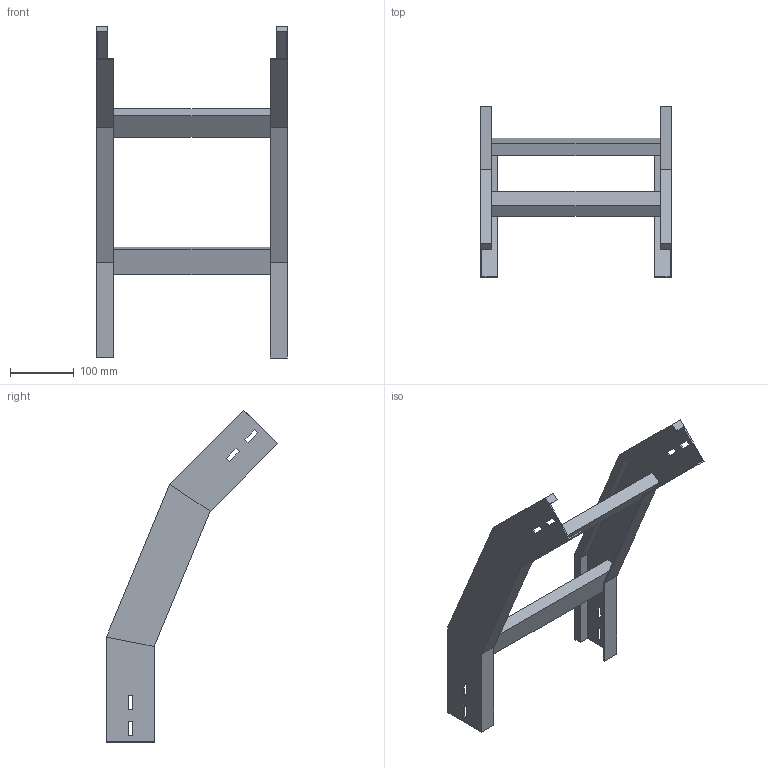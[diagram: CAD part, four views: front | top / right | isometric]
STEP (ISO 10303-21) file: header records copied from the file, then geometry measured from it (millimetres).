
FILE_DESCRIPTION (( 'STEP AP214' ), '1' );
FILE_NAME ('A2_34B3C300.step', '2025-02-21T14:54:53', ( '' ), ( '' ), 'SwSTEP 2.0', 'SolidWorks 2023', '' );
FILE_SCHEMA (( 'AUTOMOTIVE_DESIGN' ));
Length unit declared in the file: millimetre
Products named in the file (3): A2_34B3C300; TRAVERSINO_300; LONGH.DISCESA_45°_H75_R300
Assembly tree (5 placements, depth 2):
  A2_34B3C300
    LONGH.DISCESA_45°_H75_R300  x2
    TRAVERSINO_300  x3
Bounding box: 300 x 269.08 x 521.59 mm (x, y, z)
Volume: 1162448.1 mm3; surface area: 375282.9 mm2
Topology: 5 solids, 5 shells, 102 faces, 244 edges, 152 vertices
Faces by surface type: plane 102
Entity records: 1480 total; most frequent: CARTESIAN_POINT 244, ORIENTED_EDGE 232, DIRECTION 228, EDGE_CURVE 116, LINE 116, VECTOR 116, VERTEX_POINT 72, AXIS2_PLACEMENT_3D 56
